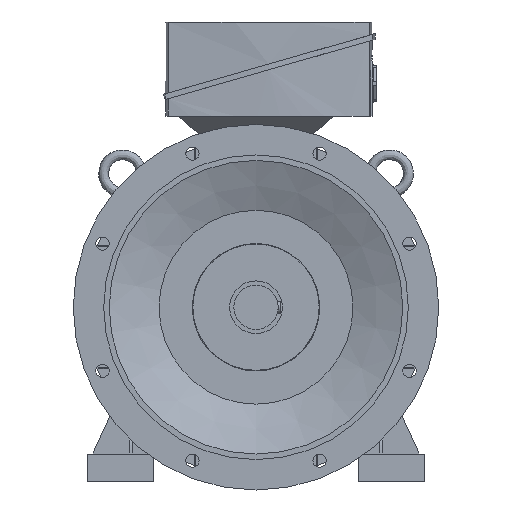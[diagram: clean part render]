
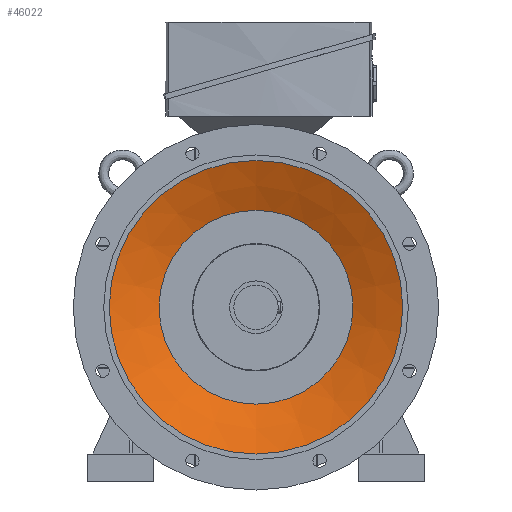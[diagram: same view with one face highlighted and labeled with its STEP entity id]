
A CAD part, left-side view. The second image highlights one B-rep face of the part: STEP entity #46022.
In plain terms, the highlighted conical face has half-angle 67.652 degrees and reference radius 265 mm.
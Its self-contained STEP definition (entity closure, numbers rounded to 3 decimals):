
#2580 = CIRCLE ( 'NONE', #3461, 265. ) ;
#3461 = AXIS2_PLACEMENT_3D ( 'NONE', #4754, #4755, #4756 ) ;
#4754 = CARTESIAN_POINT ( 'NONE',  ( -104., 0., 0. ) ) ;
#4755 = DIRECTION ( 'NONE',  ( -1., 0., 0. ) ) ;
#4756 = DIRECTION ( 'NONE',  ( 0., 0., 1. ) ) ;
#6545 = CARTESIAN_POINT ( 'NONE',  ( -104., 0., 0. ) ) ;
#6546 = DIRECTION ( 'NONE',  ( -1., 0., 0. ) ) ;
#6553 = DIRECTION ( 'NONE',  ( 0., 0., 1. ) ) ;
#13019 = EDGE_CURVE ( 'NONE', #17543, #17543, #2580, .T. ) ;
#15188 = AXIS2_PLACEMENT_3D ( 'NONE', #24662, #24663, #24664 ) ;
#17543 = VERTEX_POINT ( 'NONE', #23856 ) ;
#17572 = VERTEX_POINT ( 'NONE', #23886 ) ;
#19361 = CIRCLE ( 'NONE', #15188, 175. ) ;
#23856 = CARTESIAN_POINT ( 'NONE',  ( -104., 0., 265. ) ) ;
#23886 = CARTESIAN_POINT ( 'NONE',  ( -67., 0., 175. ) ) ;
#24662 = CARTESIAN_POINT ( 'NONE',  ( -67., 0., 0. ) ) ;
#24663 = DIRECTION ( 'NONE',  ( -1., 0., 0. ) ) ;
#24664 = DIRECTION ( 'NONE',  ( 0., 0., 1. ) ) ;
#36069 = EDGE_LOOP ( 'NONE', ( #42146 ) ) ;
#36076 = EDGE_LOOP ( 'NONE', ( #42148 ) ) ;
#36254 = FACE_OUTER_BOUND ( 'NONE', #36069, .T. ) ;
#36258 = FACE_BOUND ( 'NONE', #36076, .T. ) ;
#36263 = CONICAL_SURFACE ( 'NONE', #42964, 265., 1.181 ) ;
#42146 = ORIENTED_EDGE ( 'NONE', *, *, #13019, .T. ) ;
#42148 = ORIENTED_EDGE ( 'NONE', *, *, #50560, .F. ) ;
#42964 = AXIS2_PLACEMENT_3D ( 'NONE', #6545, #6546, #6553 ) ;
#46022 = ADVANCED_FACE ( 'NONE', ( #36254, #36258 ), #36263, .F. ) ;
#50560 = EDGE_CURVE ( 'NONE', #17572, #17572, #19361, .T. ) ;
